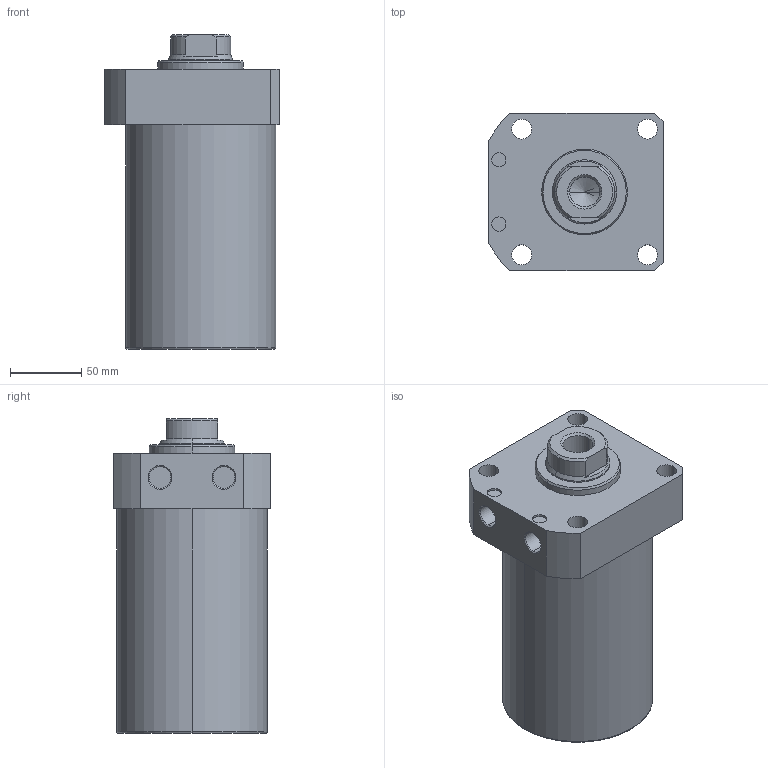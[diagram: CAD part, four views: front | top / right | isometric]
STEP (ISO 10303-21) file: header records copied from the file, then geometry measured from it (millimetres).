
FILE_DESCRIPTION (( 'STEP AP203' ), '1' );
FILE_NAME ('CLLR-105CA-110.STEP', '2019-12-18T07:11:14', ( '' ), ( '' ), 'SwSTEP 2.0', 'SolidWorks 2015', '' );
FILE_SCHEMA (( 'CONFIG_CONTROL_DESIGN' ));
Length unit declared in the file: millimetre
Products named in the file (1): CLLR-105CA-110
Bounding box: 122 x 110 x 220 mm (x, y, z)
Volume: 1856623.8 mm3; surface area: 110374.4 mm2
Topology: 1 solids, 1 shells, 65 faces, 153 edges, 96 vertices
Faces by surface type: cylinder 29, plane 19, cone 15, torus 2
Entity records: 1971 total; most frequent: DIRECTION 352, CARTESIAN_POINT 337, ORIENTED_EDGE 302, EDGE_CURVE 151, AXIS2_PLACEMENT_3D 143, VERTEX_POINT 96, EDGE_LOOP 81, CIRCLE 77
